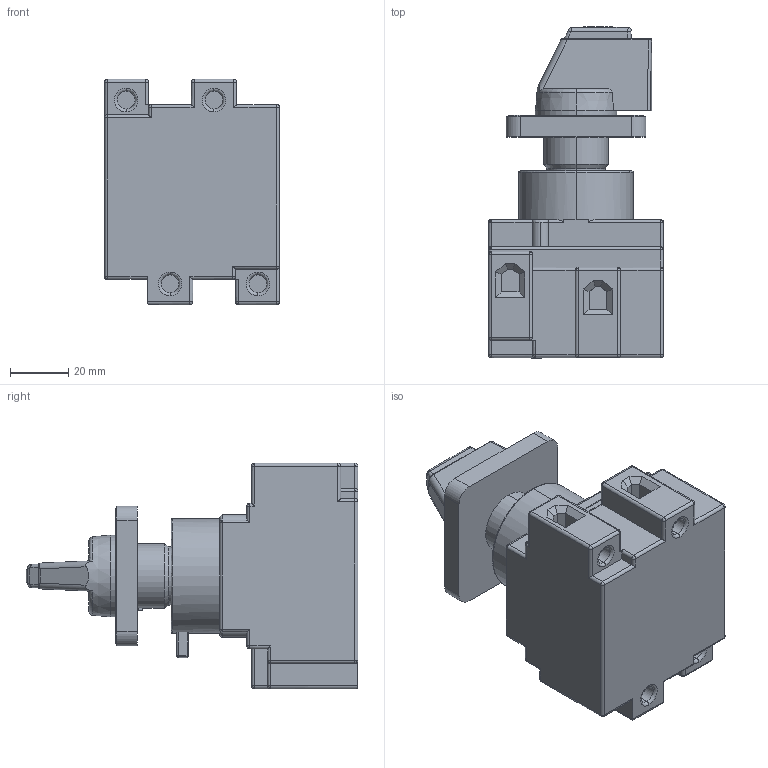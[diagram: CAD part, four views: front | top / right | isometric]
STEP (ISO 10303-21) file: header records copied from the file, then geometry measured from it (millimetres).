
FILE_DESCRIPTION (( 'STEP AP203' ), '1' );
FILE_NAME ('LS32 ZH1 A2.STEP', '2014-08-19T08:56:57', ( 'edv' ), ( '' ), 'SwSTEP 2.0', 'SolidWorks 2014', '' );
FILE_SCHEMA (( 'CONFIG_CONTROL_DESIGN' ));
Length unit declared in the file: millimetre
Products named in the file (3): Dummie Griff SV1; LS32 ZH1 A2; Dummie Schalterkörper Z A2
Assembly tree (2 placements, depth 2):
  LS32 ZH1 A2
    Dummie Schalterkörper Z A2
    Dummie Griff SV1
Bounding box: 60 x 113.8 x 77.4 mm (x, y, z)
Volume: 219207 mm3; surface area: 37716.7 mm2
Topology: 2 solids, 2 shells, 486 faces, 1176 edges, 709 vertices
Faces by surface type: plane 220, cylinder 143, bspline 108, cone 10, torus 5
Entity records: 17347 total; most frequent: CARTESIAN_POINT 6374, ORIENTED_EDGE 2316, DIRECTION 2092, EDGE_CURVE 1158, AXIS2_PLACEMENT_3D 718, VERTEX_POINT 709, LINE 656, VECTOR 656
